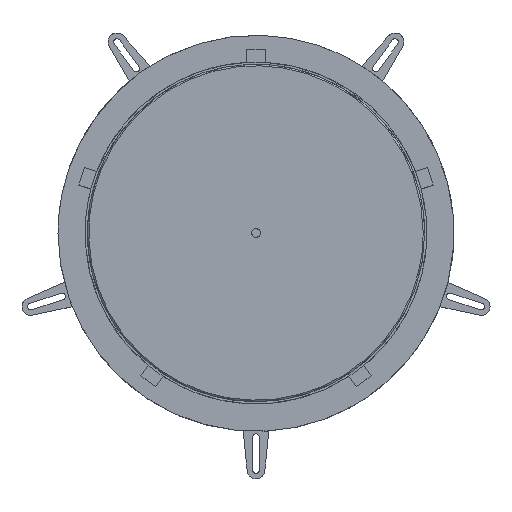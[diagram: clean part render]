
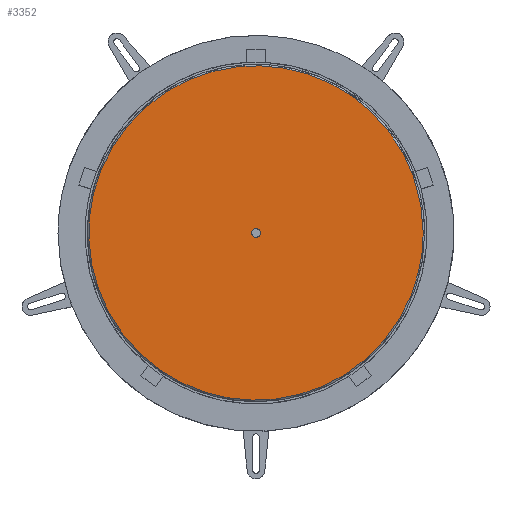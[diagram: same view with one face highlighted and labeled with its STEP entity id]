
A CAD part, top view. The second image highlights one B-rep face of the part: STEP entity #3352.
In plain terms, the highlighted free-form (B-spline) face has degree [1, 1] with [2, 2] control points.
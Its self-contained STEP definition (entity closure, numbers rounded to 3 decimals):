
#3304=CARTESIAN_POINT('',(228.,0.,303.));
#3305=VERTEX_POINT('',#3304);
#3306=CARTESIAN_POINT('',(228.,0.,303.));
#3307=CARTESIAN_POINT('',(228.,228.,303.));
#3308=CARTESIAN_POINT('',(0.,228.,303.));
#3309=CARTESIAN_POINT('',(-228.,228.,303.));
#3310=CARTESIAN_POINT('',(-228.,0.,303.));
#3311=CARTESIAN_POINT('',(-228.,-228.,303.));
#3312=CARTESIAN_POINT('',(0.,-228.,303.));
#3313=CARTESIAN_POINT('',(228.,-228.,303.));
#3314=CARTESIAN_POINT('',(228.,0.,303.));
#3315=(BOUNDED_CURVE()B_SPLINE_CURVE(2,(#3306,#3307,#3308,#3309,#3310,#3311,#3312,#3313,#3314),.CIRCULAR_ARC.,.T.,.U.)B_SPLINE_CURVE_WITH_KNOTS((3,2,2,2,3),(0.,0.25,0.5,0.75,1.),.UNSPECIFIED.)CURVE()GEOMETRIC_REPRESENTATION_ITEM()RATIONAL_B_SPLINE_CURVE((1.,0.707,1.,0.707,1.,0.707,1.,0.707,1.))REPRESENTATION_ITEM(''));
#3316=EDGE_CURVE('',#3305,#3305,#3315,.T.);
#3328=CARTESIAN_POINT('',(-506.357,-443.925,303.));
#3329=CARTESIAN_POINT('',(-506.357,443.925,303.));
#3330=CARTESIAN_POINT('',(381.492,-443.925,303.));
#3331=CARTESIAN_POINT('',(381.492,443.925,303.));
#3332=B_SPLINE_SURFACE_WITH_KNOTS('',1,1,((#3328,#3329),(#3330,#3331)),.PLANE_SURF.,.F.,.F.,.U.,(2,2),(2,2),(0.,1.),(0.,1.),.UNSPECIFIED.);
#3333=ORIENTED_EDGE('',*,*,#3316,.T.);
#3334=EDGE_LOOP('',(#3333));
#3335=FACE_OUTER_BOUND('',#3334,.T.);
#3336=CARTESIAN_POINT('',(6.,0.,303.));
#3337=VERTEX_POINT('',#3336);
#3338=CARTESIAN_POINT('',(6.,0.,303.));
#3339=CARTESIAN_POINT('',(6.,-6.,303.));
#3340=CARTESIAN_POINT('',(0.,-6.,303.));
#3341=CARTESIAN_POINT('',(-6.,-6.,303.));
#3342=CARTESIAN_POINT('',(-6.,0.,303.));
#3343=CARTESIAN_POINT('',(-6.,6.,303.));
#3344=CARTESIAN_POINT('',(0.,6.,303.));
#3345=CARTESIAN_POINT('',(6.,6.,303.));
#3346=CARTESIAN_POINT('',(6.,0.,303.));
#3347=(BOUNDED_CURVE()B_SPLINE_CURVE(2,(#3338,#3339,#3340,#3341,#3342,#3343,#3344,#3345,#3346),.CIRCULAR_ARC.,.T.,.U.)B_SPLINE_CURVE_WITH_KNOTS((3,2,2,2,3),(0.,0.25,0.5,0.75,1.),.UNSPECIFIED.)CURVE()GEOMETRIC_REPRESENTATION_ITEM()RATIONAL_B_SPLINE_CURVE((1.,0.707,1.,0.707,1.,0.707,1.,0.707,1.))REPRESENTATION_ITEM(''));
#3348=EDGE_CURVE('',#3337,#3337,#3347,.T.);
#3349=ORIENTED_EDGE('',*,*,#3348,.T.);
#3350=EDGE_LOOP('',(#3349));
#3351=FACE_BOUND('',#3350,.T.);
#3352=ADVANCED_FACE('',(#3335,#3351),#3332,.T.);
